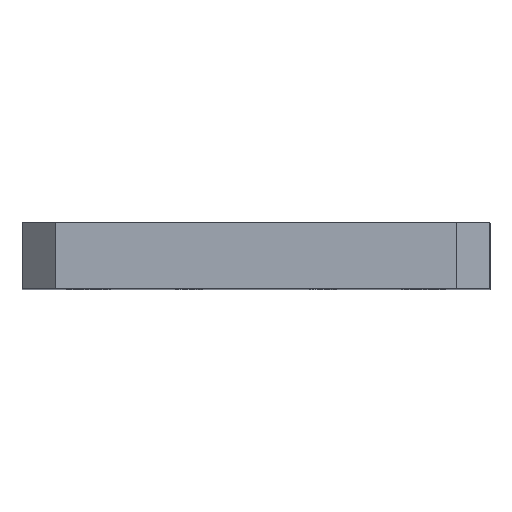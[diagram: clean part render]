
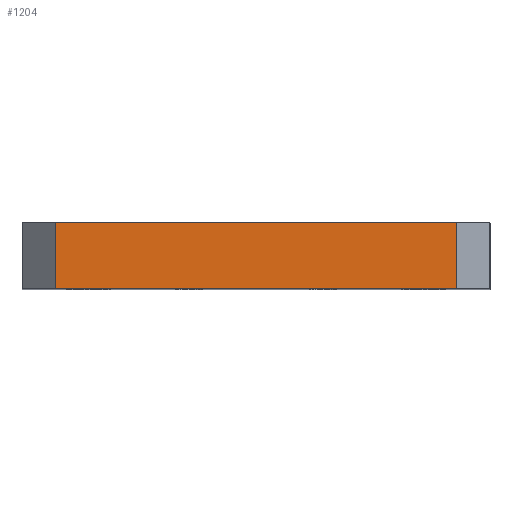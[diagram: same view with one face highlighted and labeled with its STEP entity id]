
A CAD part, top view. The second image highlights one B-rep face of the part: STEP entity #1204.
In plain terms, the highlighted planar face has unit normal (0, 0, 1).
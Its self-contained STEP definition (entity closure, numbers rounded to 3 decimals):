
#85 = VERTEX_POINT ( 'NONE', #1718 ) ;
#118 = CARTESIAN_POINT ( 'NONE',  ( -30., 10., 90. ) ) ;
#158 = DIRECTION ( 'NONE',  ( 0., -1., 0. ) ) ;
#185 = LINE ( 'NONE', #1240, #1165 ) ;
#235 = CARTESIAN_POINT ( 'NONE',  ( 30., 10., 90. ) ) ;
#312 = LINE ( 'NONE', #1170, #1540 ) ;
#314 = EDGE_CURVE ( 'NONE', #1773, #942, #1038, .T. ) ;
#379 = EDGE_CURVE ( 'NONE', #436, #85, #312, .T. ) ;
#436 = VERTEX_POINT ( 'NONE', #1742 ) ;
#515 = FACE_OUTER_BOUND ( 'NONE', #579, .T. ) ;
#542 = DIRECTION ( 'NONE',  ( 0., 1., 0. ) ) ;
#579 = EDGE_LOOP ( 'NONE', ( #754, #1294, #1800, #900 ) ) ;
#605 = EDGE_CURVE ( 'NONE', #1773, #436, #185, .T. ) ;
#737 = DIRECTION ( 'NONE',  ( -1., 0., 0. ) ) ;
#742 = LINE ( 'NONE', #235, #1375 ) ;
#754 = ORIENTED_EDGE ( 'NONE', *, *, #314, .F. ) ;
#817 = DIRECTION ( 'NONE',  ( 1., 0., 0. ) ) ;
#900 = ORIENTED_EDGE ( 'NONE', *, *, #1819, .T. ) ;
#942 = VERTEX_POINT ( 'NONE', #1056 ) ;
#951 = DIRECTION ( 'NONE',  ( 1., 0., 0. ) ) ;
#1038 = LINE ( 'NONE', #1269, #1451 ) ;
#1056 = CARTESIAN_POINT ( 'NONE',  ( 30., 10., 90. ) ) ;
#1165 = VECTOR ( 'NONE', #158, 1000. ) ;
#1170 = CARTESIAN_POINT ( 'NONE',  ( -35., 0., 90. ) ) ;
#1204 = ADVANCED_FACE ( 'NONE', ( #515 ), #1617, .F. ) ;
#1240 = CARTESIAN_POINT ( 'NONE',  ( -30., 10., 90. ) ) ;
#1265 = DIRECTION ( 'NONE',  ( 0., 0., -1. ) ) ;
#1269 = CARTESIAN_POINT ( 'NONE',  ( -35., 10., 90. ) ) ;
#1294 = ORIENTED_EDGE ( 'NONE', *, *, #605, .T. ) ;
#1375 = VECTOR ( 'NONE', #542, 1000. ) ;
#1451 = VECTOR ( 'NONE', #817, 1000. ) ;
#1540 = VECTOR ( 'NONE', #951, 1000. ) ;
#1617 = PLANE ( 'NONE',  #1837 ) ;
#1718 = CARTESIAN_POINT ( 'NONE',  ( 30., 0., 90. ) ) ;
#1742 = CARTESIAN_POINT ( 'NONE',  ( -30., 0., 90. ) ) ;
#1773 = VERTEX_POINT ( 'NONE', #118 ) ;
#1800 = ORIENTED_EDGE ( 'NONE', *, *, #379, .T. ) ;
#1805 = CARTESIAN_POINT ( 'NONE',  ( -35., 10., 90. ) ) ;
#1819 = EDGE_CURVE ( 'NONE', #85, #942, #742, .T. ) ;
#1837 = AXIS2_PLACEMENT_3D ( 'NONE', #1805, #1265, #737 ) ;
